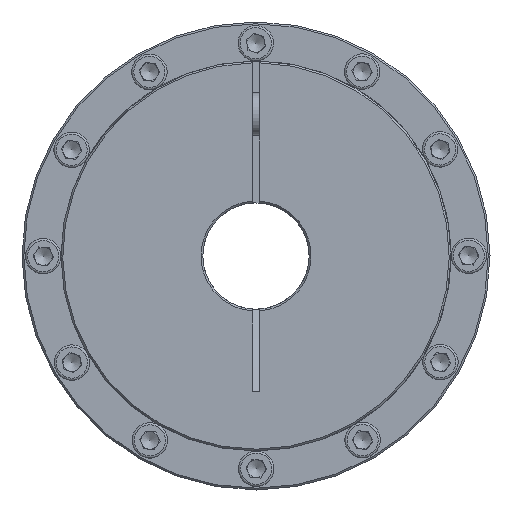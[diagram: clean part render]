
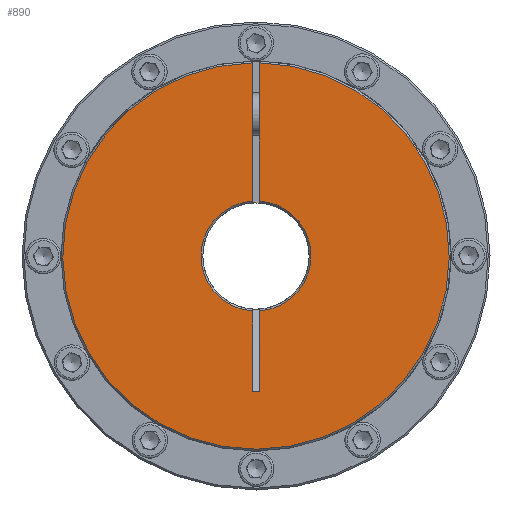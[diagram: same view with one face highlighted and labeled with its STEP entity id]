
A CAD part, left-side view. The second image highlights one B-rep face of the part: STEP entity #890.
In plain terms, the highlighted planar face has unit normal (-1, 0, 0).
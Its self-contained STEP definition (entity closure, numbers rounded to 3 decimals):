
#890 = ADVANCED_FACE( 'NONE', ( #1768 ), #1769, .F. );
#1768 = FACE_OUTER_BOUND( '', #2564, .T. );
#1769 = PLANE( '', #2565 );
#2564 = EDGE_LOOP( '', ( #3877, #3878, #3879, #3880, #3881, #3882, #3883, #3884 ) );
#2565 = AXIS2_PLACEMENT_3D( '', #3885, #3886, #3887 );
#3877 = ORIENTED_EDGE( '', *, *, #4213, .T. );
#3878 = ORIENTED_EDGE( '', *, *, #4440, .T. );
#3879 = ORIENTED_EDGE( '', *, *, #4304, .T. );
#3880 = ORIENTED_EDGE( '', *, *, #4316, .T. );
#3881 = ORIENTED_EDGE( '', *, *, #4035, .F. );
#3882 = ORIENTED_EDGE( '', *, *, #4284, .T. );
#3883 = ORIENTED_EDGE( '', *, *, #4289, .F. );
#3884 = ORIENTED_EDGE( '', *, *, #4397, .T. );
#3885 = CARTESIAN_POINT( '', ( 0., 15., 0. ) );
#3886 = DIRECTION( '', ( 1., 0., 0. ) );
#3887 = DIRECTION( '', ( 0., 1., 0. ) );
#4035 = EDGE_CURVE( 'NONE', #4559, #4561, #4562, .F. );
#4213 = EDGE_CURVE( 'NONE', #4858, #4856, #4859, .T. );
#4284 = EDGE_CURVE( 'NONE', #4559, #4956, #4959, .T. );
#4289 = EDGE_CURVE( 'NONE', #4965, #4956, #4966, .F. );
#4304 = EDGE_CURVE( 'NONE', #4987, #4988, #4989, .T. );
#4316 = EDGE_CURVE( 'NONE', #4988, #4561, #5004, .F. );
#4397 = EDGE_CURVE( 'NONE', #4965, #4858, #5117, .T. );
#4440 = EDGE_CURVE( 'NONE', #4856, #4987, #5174, .T. );
#4559 = VERTEX_POINT( 'NONE', #5303 );
#4561 = VERTEX_POINT( 'NONE', #5308 );
#4562 = LINE( '', #5309, #5310 );
#4856 = VERTEX_POINT( 'NONE', #5759 );
#4858 = VERTEX_POINT( 'NONE', #5764 );
#4859 = LINE( '', #5765, #5766 );
#4956 = VERTEX_POINT( 'NONE', #5955 );
#4959 = CIRCLE( '', #5961, 15.5 );
#4965 = VERTEX_POINT( 'NONE', #5967 );
#4966 = LINE( '', #5968, #5969 );
#4987 = VERTEX_POINT( 'NONE', #5994 );
#4988 = VERTEX_POINT( 'NONE', #5995 );
#4989 = LINE( '', #5996, #5997 );
#5004 = CIRCLE( '', #6023, 54.5 );
#5117 = LINE( '', #6159, #6160 );
#5174 = CIRCLE( '', #6220, 15.5 );
#5303 = CARTESIAN_POINT( '', ( 0., -15.468, -1. ) );
#5308 = CARTESIAN_POINT( '', ( 0., -54.491, -1. ) );
#5309 = CARTESIAN_POINT( '', ( 0., -15., -1. ) );
#5310 = VECTOR( '', #6371, 1000. );
#5759 = CARTESIAN_POINT( '', ( 0., 15.468, 1. ) );
#5764 = CARTESIAN_POINT( '', ( 0., 38.303, 1. ) );
#5765 = CARTESIAN_POINT( '', ( 0., 15., 1. ) );
#5766 = VECTOR( '', #6651, 1000. );
#5955 = CARTESIAN_POINT( '', ( 0., 15.468, -1. ) );
#5961 = AXIS2_PLACEMENT_3D( '', #6753, #6754, #6755 );
#5967 = CARTESIAN_POINT( '', ( 0., 38.303, -1. ) );
#5968 = CARTESIAN_POINT( '', ( 0., -15., -1. ) );
#5969 = VECTOR( '', #6762, 1000. );
#5994 = CARTESIAN_POINT( '', ( 0., -15.468, 1. ) );
#5995 = CARTESIAN_POINT( '', ( 0., -54.491, 1. ) );
#5996 = CARTESIAN_POINT( '', ( 0., 15., 1. ) );
#5997 = VECTOR( '', #6782, 1000. );
#6023 = AXIS2_PLACEMENT_3D( '', #6791, #6792, #6793 );
#6159 = CARTESIAN_POINT( '', ( 0., 38.303, -1. ) );
#6160 = VECTOR( '', #6901, 1000. );
#6220 = AXIS2_PLACEMENT_3D( '', #6953, #6954, #6955 );
#6371 = DIRECTION( '', ( 0., 1., 0. ) );
#6651 = DIRECTION( '', ( 0., -1., 0. ) );
#6753 = CARTESIAN_POINT( '', ( 0., 0., 0. ) );
#6754 = DIRECTION( '', ( 1., 0., 0. ) );
#6755 = DIRECTION( '', ( 0., 0., -1. ) );
#6762 = DIRECTION( '', ( 0., 1., 0. ) );
#6782 = DIRECTION( '', ( 0., -1., 0. ) );
#6791 = CARTESIAN_POINT( '', ( 0., 0., 0. ) );
#6792 = DIRECTION( '', ( 1., 0., 0. ) );
#6793 = DIRECTION( '', ( 0., 0., -1. ) );
#6901 = DIRECTION( '', ( 0., 0., 1. ) );
#6953 = CARTESIAN_POINT( '', ( 0., 0., 0. ) );
#6954 = DIRECTION( '', ( 1., 0., 0. ) );
#6955 = DIRECTION( '', ( 0., 0., -1. ) );
